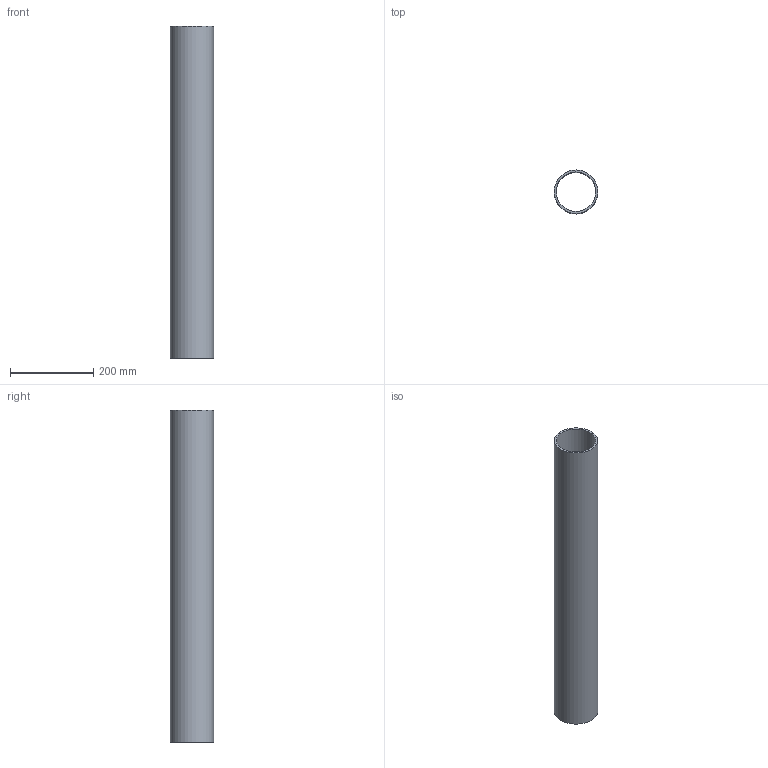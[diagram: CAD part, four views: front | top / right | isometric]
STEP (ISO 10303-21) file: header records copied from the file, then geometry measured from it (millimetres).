
FILE_DESCRIPTION(/* description */ (''),/* implementation_level */ '2;1');
FILE_NAME(/* name */ 'upstream pipe.stp',/* time_stamp */ '2026-07-13T09:09:28+03:00',/* author */ ('USER'),/* organization */ (''),/* preprocessor_version */ 'ST-DEVELOPER v20',/* originating_system */ 'Autodesk Inventor 2025',/* authorisation */ '');
FILE_SCHEMA (('AUTOMOTIVE_DESIGN { 1 0 10303 214 3 1 1 }'));
Length unit declared in the file: millimetre
Products named in the file (1): upstream pipe
Bounding box: 105 x 105 x 800 mm (x, y, z)
Volume: 1256637.1 mm3; surface area: 505796.4 mm2
Topology: 1 solids, 1 shells, 4 faces, 6 edges, 4 vertices
Faces by surface type: cylinder 2, plane 2
Full cylindrical faces by diameter (mm): 95 x1, 105 x1
Entity records: 141 total; most frequent: DIRECTION 20, CARTESIAN_POINT 15, ORIENTED_EDGE 12, AXIS2_PLACEMENT_3D 9, EDGE_LOOP 6, EDGE_CURVE 6, FACE_OUTER_BOUND 4, CIRCLE 4
